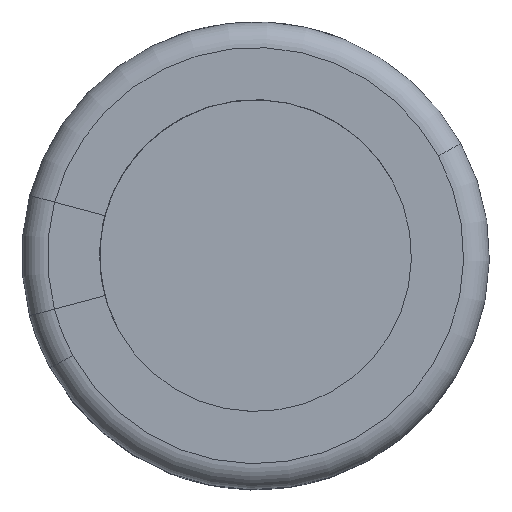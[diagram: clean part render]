
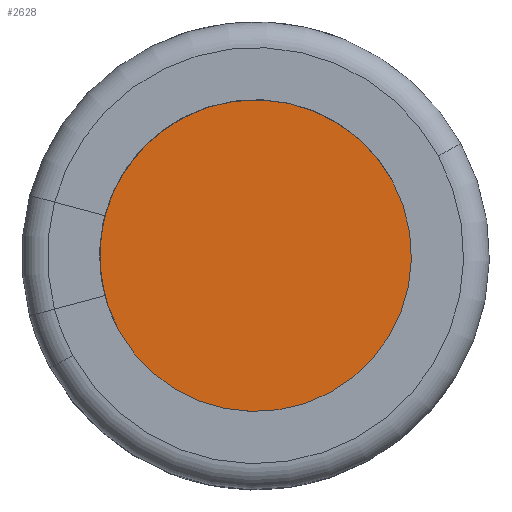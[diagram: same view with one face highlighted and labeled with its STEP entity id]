
A CAD part, top view. The second image highlights one B-rep face of the part: STEP entity #2628.
In plain terms, the highlighted planar face has unit normal (0, 0, 1).
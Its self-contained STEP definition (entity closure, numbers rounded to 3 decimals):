
#2605=CARTESIAN_POINT('Axis2P3D Location',(-10.,0.,24.9)) ;
#2610=CARTESIAN_POINT('Axis2P3D Location',(0.,0.,24.9)) ;
#2614=CARTESIAN_POINT('Vertex',(-8.776,-4.794,24.9)) ;
#2616=CARTESIAN_POINT('Vertex',(8.776,4.794,24.9)) ;
#2619=CARTESIAN_POINT('Axis2P3D Location',(0.,0.,24.9)) ;
#2606=DIRECTION('Axis2P3D Direction',(0.,0.,1.)) ;
#2607=DIRECTION('Axis2P3D XDirection',(1.,0.,0.)) ;
#2611=DIRECTION('Axis2P3D Direction',(0.,0.,1.)) ;
#2620=DIRECTION('Axis2P3D Direction',(0.,0.,1.)) ;
#2608=AXIS2_PLACEMENT_3D('Plane Axis2P3D',#2605,#2606,#2607) ;
#2612=AXIS2_PLACEMENT_3D('Circle Axis2P3D',#2610,#2611,$) ;
#2621=AXIS2_PLACEMENT_3D('Circle Axis2P3D',#2619,#2620,$) ;
#2613=CIRCLE('generated circle',#2612,10.) ;
#2622=CIRCLE('generated circle',#2621,10.) ;
#2609=PLANE('',#2608) ;
#2618=EDGE_CURVE('',#2615,#2617,#2613,.T.) ;
#2623=EDGE_CURVE('',#2617,#2615,#2622,.T.) ;
#2624=EDGE_LOOP('',(#2625,#2626)) ;
#2625=ORIENTED_EDGE('',*,*,#2618,.T.) ;
#2626=ORIENTED_EDGE('',*,*,#2623,.T.) ;
#2615=VERTEX_POINT('',#2614) ;
#2617=VERTEX_POINT('',#2616) ;
#2628=ADVANCED_FACE('\X2\FF8AFF9FFF70FF82\X0\ \X2\FF8EFF9EFF83FF9EFF68FF70\X0\',(#2627),#2609,.T.) ;
#2627=FACE_OUTER_BOUND('',#2624,.T.) ;
